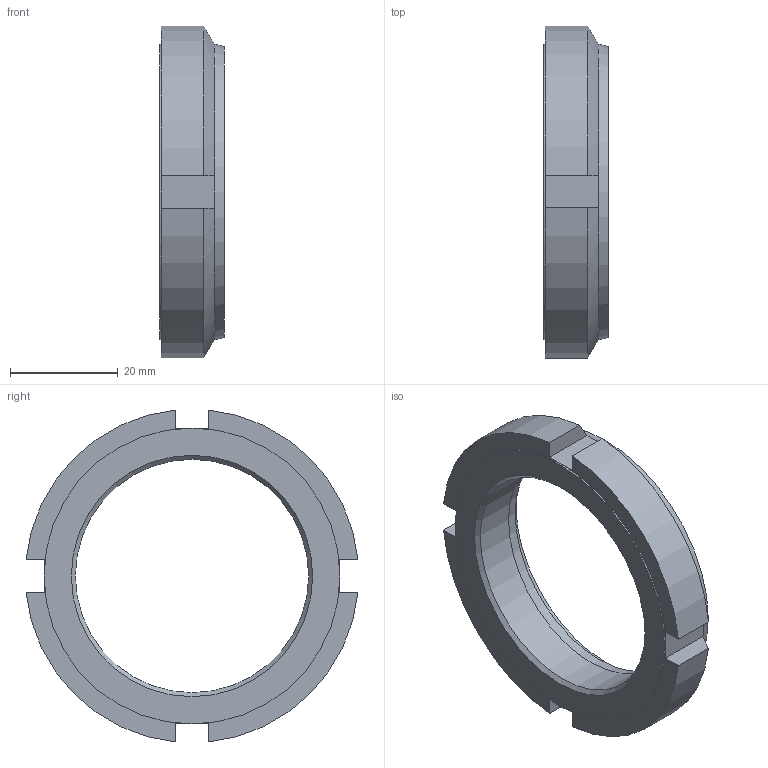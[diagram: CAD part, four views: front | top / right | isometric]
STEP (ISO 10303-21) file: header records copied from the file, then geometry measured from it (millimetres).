
FILE_DESCRIPTION( ( 'STEP AP203' ), '1' );
FILE_NAME( 'C:/Temp/Ganter_Step_05_03_2020/data/3_2/gn1804_1/Slotted locknut self-locking GN 1804.1-M45x1,5.stp', '2020-03-13T05:25:17', ( 'License CC BY-ND 4.0' ), ( 'CADENAS' ), ' ', 'PARTsolutions', ' ' );
FILE_SCHEMA( ( 'CONFIG_CONTROL_DESIGN' ) );
Length unit declared in the file: millimetre
Products named in the file (1): _Slotted locknut self-locking GN 1804.1-M45x1,5
Bounding box: 12 x 61.71 x 61.71 mm (x, y, z)
Volume: 15082.5 mm3; surface area: 6714.4 mm2
Topology: 1 solids, 1 shells, 34 faces, 79 edges, 49 vertices
Faces by surface type: plane 20, cylinder 8, cone 6
Full cylindrical faces by diameter (mm): 43.376 x1, 44.5 x1, 47 x1, 55 x1
Entity records: 1018 total; most frequent: CARTESIAN_POINT 229, DIRECTION 152, ORIENTED_EDGE 146, EDGE_CURVE 73, AXIS2_PLACEMENT_3D 60, VERTEX_POINT 49, EDGE_LOOP 44, FACE_OUTER_BOUND 38
